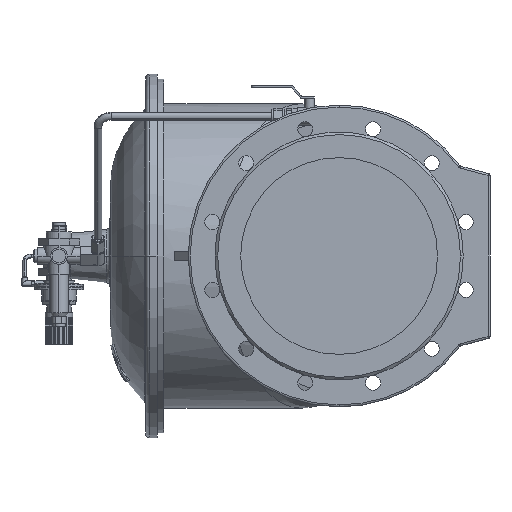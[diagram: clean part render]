
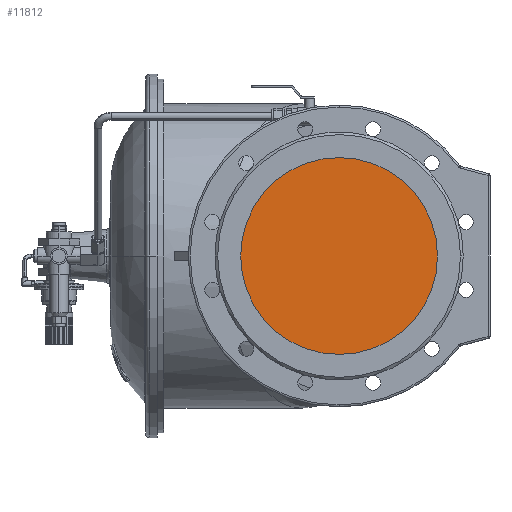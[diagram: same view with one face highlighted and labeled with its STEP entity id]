
A CAD part, left-side view. The second image highlights one B-rep face of the part: STEP entity #11812.
In plain terms, the highlighted planar face has unit normal (-1, 0, 0).
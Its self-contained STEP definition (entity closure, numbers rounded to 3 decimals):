
#1776 = DIRECTION ( 'NONE',  ( -1., 0., 0. ) ) ;
#3610 = CARTESIAN_POINT ( 'NONE',  ( -407., 0., 0. ) ) ;
#4399 = DIRECTION ( 'NONE',  ( 0., -1., 0. ) ) ;
#8109 = AXIS2_PLACEMENT_3D ( 'NONE', #38430, #1776, #4399 ) ;
#9264 = FACE_OUTER_BOUND ( 'NONE', #11587, .T. ) ;
#10661 = ORIENTED_EDGE ( 'NONE', *, *, #15679, .T. ) ;
#11587 = EDGE_LOOP ( 'NONE', ( #34198, #10661 ) ) ;
#11812 = ADVANCED_FACE ( 'Defeatured_0_894', ( #9264 ), #30605, .T. ) ;
#12127 = CARTESIAN_POINT ( 'NONE',  ( -407., 0., -150. ) ) ;
#15679 = EDGE_CURVE ( 'Defeatured_0_894+Defeatured_0_895+Defeatured_0_895+Defeatured_0_895', #34399, #28330, #34617, .T. ) ;
#18928 = DIRECTION ( 'NONE',  ( 0., -1., 0. ) ) ;
#20357 = CARTESIAN_POINT ( 'NONE',  ( -407., 0., 150. ) ) ;
#21174 = DIRECTION ( 'NONE',  ( -1., 0., 0. ) ) ;
#21683 = AXIS2_PLACEMENT_3D ( 'NONE', #3610, #24184, #33641 ) ;
#24184 = DIRECTION ( 'NONE',  ( -1., 0., 0. ) ) ;
#24188 = CARTESIAN_POINT ( 'NONE',  ( -407., 0., 0. ) ) ;
#26110 = CIRCLE ( 'NONE', #8109, 150. ) ;
#26251 = AXIS2_PLACEMENT_3D ( 'NONE', #24188, #21174, #18928 ) ;
#27513 = EDGE_CURVE ( 'Defeatured_0_894+Defeatured_0_895+Defeatured_0_895+Defeatured_0_895', #28330, #34399, #26110, .T. ) ;
#28330 = VERTEX_POINT ( 'NONE', #20357 ) ;
#30605 = PLANE ( 'NONE',  #21683 ) ;
#33641 = DIRECTION ( 'NONE',  ( 0., -1., 0. ) ) ;
#34198 = ORIENTED_EDGE ( 'NONE', *, *, #27513, .T. ) ;
#34399 = VERTEX_POINT ( 'NONE', #12127 ) ;
#34617 = CIRCLE ( 'NONE', #26251, 150. ) ;
#38430 = CARTESIAN_POINT ( 'NONE',  ( -407., 0., 0. ) ) ;
